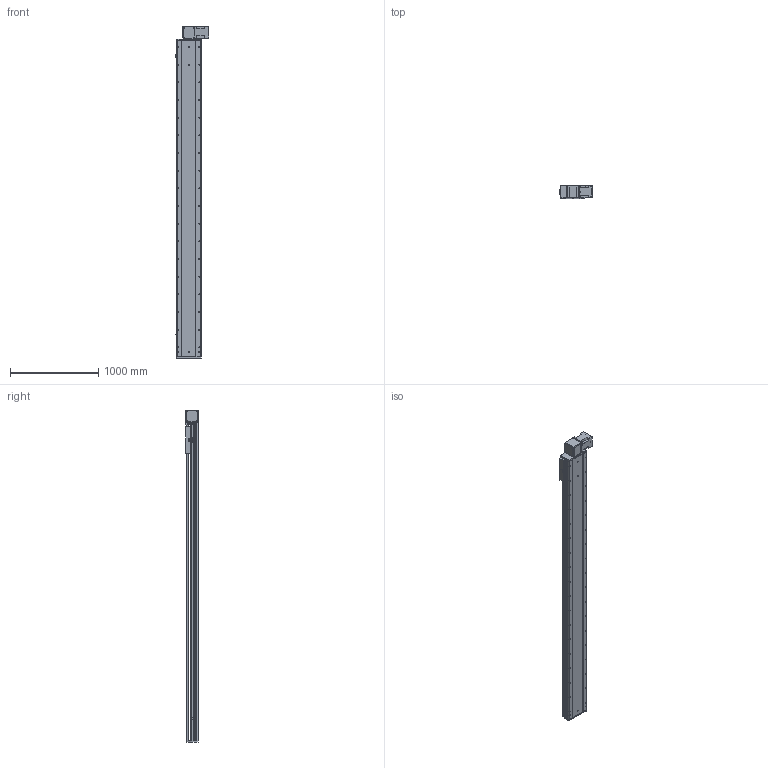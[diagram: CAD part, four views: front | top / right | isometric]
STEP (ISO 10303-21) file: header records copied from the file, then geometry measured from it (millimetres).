
FILE_DESCRIPTION (( 'STEP AP214' ), '1' );
FILE_NAME ('RTB28S-XX-3150-BL-M100-XX-C4.STEP', '2025-12-22T02:37:35', ( '' ), ( '' ), 'SwSTEP 2.0', 'SolidWorks 2018', '' );
FILE_SCHEMA (( 'AUTOMOTIVE_DESIGN' ));
Length unit declared in the file: millimetre
Products named in the file (4): RTB28S-GY-011^RTB28S-XX-XX-BL-M100-XX-C4; RTB28S-GY-004^RTB28S-XX-XX-BL-M100-XX-C4; RTB28S-GY-008^RTB28S-XX-XX-BL-M100-XX-C4; RTB28S-XX-3150-BL-M100-XX-C4
Assembly tree (3 placements, depth 2):
  RTB28S-XX-3150-BL-M100-XX-C4
    RTB28S-GY-011^RTB28S-XX-XX-BL-M100-XX-C4
    RTB28S-GY-004^RTB28S-XX-XX-BL-M100-XX-C4
    RTB28S-GY-008^RTB28S-XX-XX-BL-M100-XX-C4
Bounding box: 380.7 x 145 x 3757 mm (x, y, z)
Volume: 63466086.5 mm3; surface area: 5918248 mm2
Topology: 3 solids, 4 shells, 898 faces, 2418 edges, 1548 vertices
Faces by surface type: cylinder 447, plane 367, cone 80, torus 4
Entity records: 34859 total; most frequent: CARTESIAN_POINT 6652, DIRECTION 5148, ORIENTED_EDGE 4772, EDGE_CURVE 2386, AXIS2_PLACEMENT_3D 1904, VERTEX_POINT 1548, VECTOR 1340, LINE 1340
